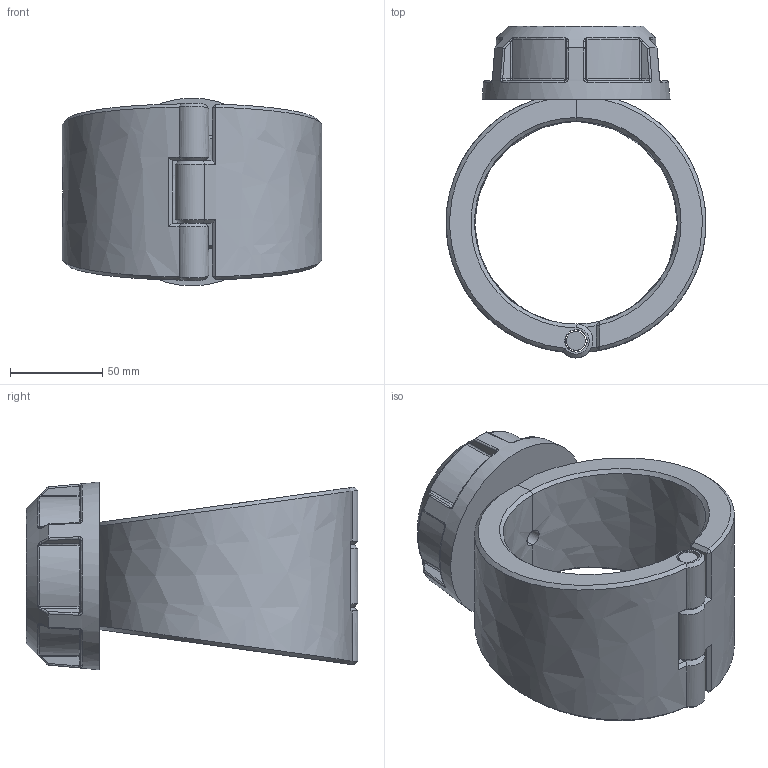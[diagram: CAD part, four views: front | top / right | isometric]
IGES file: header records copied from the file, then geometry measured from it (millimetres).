
Global section: file name: 163000110005; native system: Autodesk Inventor 2019; preprocessor: unknown; author: comp2; date: 20220203.114737; units: millimetre
Bounding box: 141 x 180 x 101.96 mm (x, y, z)
Volume: 700616.2 mm3; surface area: 110104.7 mm2
Topology: 4 solids, 4 shells, 203 faces, 486 edges, 293 vertices
Faces by surface type: bspline 203
